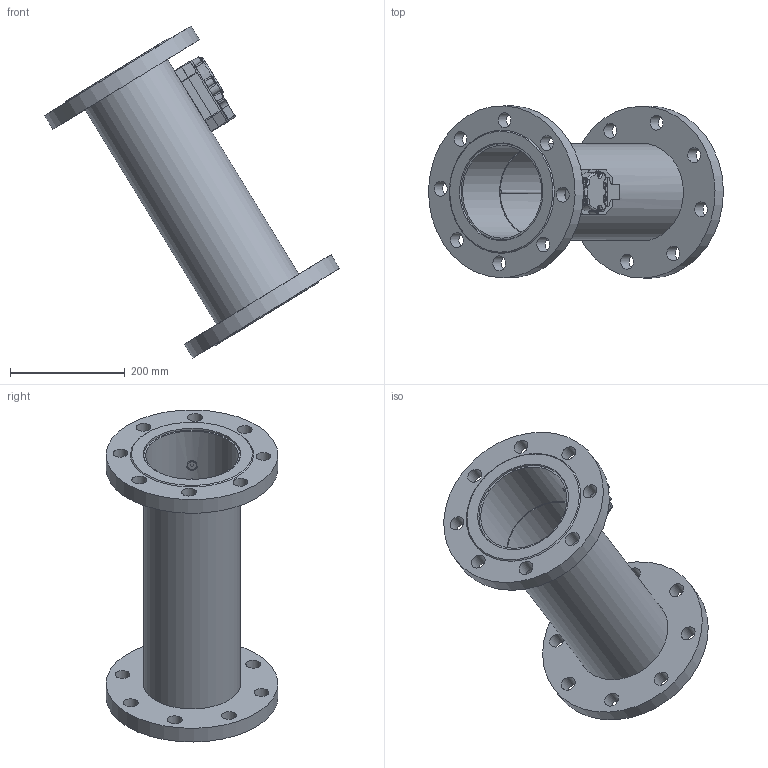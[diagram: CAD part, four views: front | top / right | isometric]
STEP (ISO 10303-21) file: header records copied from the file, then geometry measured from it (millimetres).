
FILE_DESCRIPTION( ( 'Unknown' ), '1' );
FILE_NAME( 'H:/440 pour vente_mai_2013/step_2/DN150_PN25_inox_500mm_rempli.stp', 'Unknown', ( 'Unknown' ), ( 'Unknown' ), 'PSStep 15.0.49', 'Unknown', ' ' );
FILE_SCHEMA( ( 'AUTOMOTIVE_DESIGN { 1 0 10303 214 1 1 1 1 }' ) );
Length unit declared in the file: millimetre
Products named in the file (9): 440_tête_rempli; 0440P011_rempli; 0440P012_rempli; 0440P060_rempli; Assem1; 0440P202_rempli; 0440P225_rempli; 0440P245_rempli; 0440P303_rempli
Assembly tree (10 placements, depth 3):
  Assem1
    0440P202_rempli
    0440P225_rempli  x2
    0440P245_rempli
    0440P303_rempli  x2
    440_tête_rempli
      0440P011_rempli
      0440P012_rempli
      0440P060_rempli
Bounding box: 514.61 x 299.95 x 579.58 mm (x, y, z)
Volume: 3977052.3 mm3; surface area: 901855.3 mm2
Topology: 9 solids, 14 shells, 276 faces, 691 edges, 435 vertices
Faces by surface type: cylinder 96, plane 79, cone 57, torus 29, bspline 15
Full cylindrical faces by diameter (mm): 2.2 x1, 2.459 x2, 2.5 x1, 3 x2, 3.242 x4, 4.1 x1, 5.03 x1, 6 x1, 6.2 x6, 6.917 x2, 10.2 x2, 16 x2, 20 x4, 26 x16, 162 x1, 168.3 x1, 170.5 x2, 300 x2
Entity records: 13572 total; most frequent: CARTESIAN_POINT 5526, DIRECTION 1281, ORIENTED_EDGE 1090, EDGE_CURVE 545, AXIS2_PLACEMENT_3D 538, VERTEX_POINT 377, EDGE_LOOP 362, FACE_OUTER_BOUND 297
